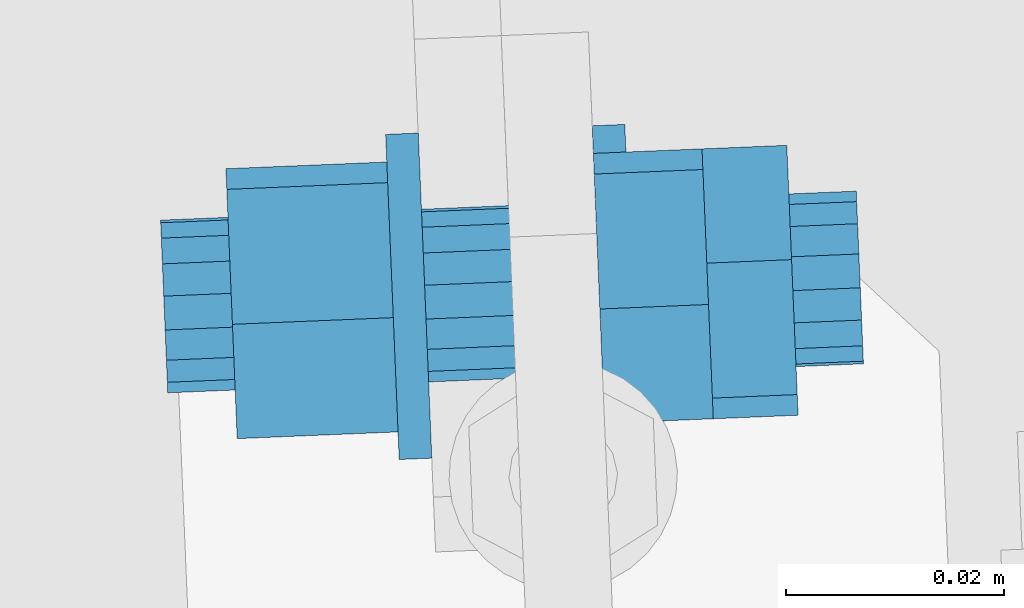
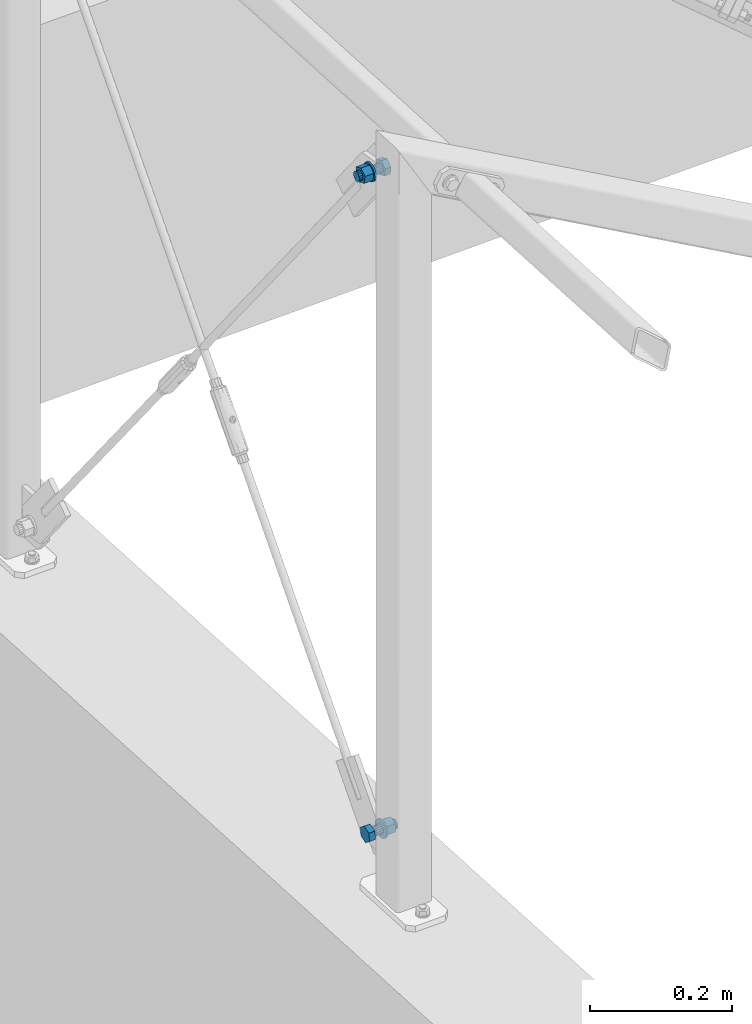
# One storey, part 244 of 288: 2 mechanical fasteners.
"""IFC2X3 building model written with IfcOpenShell, lengths in millimetres."""

from ifc_helpers import new_model, entity, si_unit, converted_unit, origin_with_axes, place, context, project, spatial, faceted_brep, element, save


model = new_model("IFC2X3")

# Units and contexts
model_context = context("Model", 3, precision=1e-09, world=origin_with_axes())
ifc_project = project(units=[si_unit("LENGTHUNIT", "METRE", prefix="MILLI"), si_unit("AREAUNIT", "SQUARE_METRE"), si_unit("VOLUMEUNIT", "CUBIC_METRE"), converted_unit("PLANEANGLEUNIT", "DEGREE", entity("IfcPlaneAngleMeasure", 0.01745329), si_unit("PLANEANGLEUNIT", "RADIAN"), dimensions=[0, 0, 0, 0, 0, 0, 0])], contexts=[model_context])

# Site, building, storey
site_placement = place(None, origin_with_axes())
site = spatial("IfcSite", under=ifc_project, at=site_placement, Name="Remont ?wietlik?w nad MC w NCPP w Opolu", CompositionType="ELEMENT")
building_placement = place(site_placement, origin_with_axes())
building = spatial("IfcBuilding", under=site, at=building_placement, Name="Konstrukcja 1", CompositionType="ELEMENT")
storey_placement = place(building_placement, origin_with_axes())
storey = spatial("IfcBuildingStorey", under=building, at=storey_placement, Name="Default Storey", CompositionType="ELEMENT", Elevation=0.0)

# Mechanical fasteners
mechanical_fastener_1_placement = place(None, origin_with_axes())
element("IfcMechanicalFastener", 1, at=mechanical_fastener_1_placement, inside=storey, ObjectType="Bolt#1", NominalDiameter=16.0, NominalLength=40.0, context=model_context, shape_type="Brep", body=[
    faceted_brep([(-696.219337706, 13405.078464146, 98.573975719), (-706.210651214, 13404.661745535, 98.573975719), (-705.69325701, 13392.256617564, 93.600473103), (-695.701943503, 13392.673336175, 93.600473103), (-705.614048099, 13390.357491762, 80.361225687), (-695.622734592, 13390.774210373, 80.361225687), (-706.052233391, 13400.86349393, 72.095480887), (-696.060919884, 13401.280212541, 72.095480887), (-706.569627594, 13413.268621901, 77.068983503), (-696.578314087, 13413.685340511, 77.068983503), (-706.648836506, 13415.167747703, 90.308230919), (-696.657522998, 13415.584466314, 90.308230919)], [[[0, 1, 2, 3]], [[3, 2, 4, 5]], [[5, 4, 6, 7]], [[7, 6, 8, 9]], [[9, 8, 10, 11]], [[11, 10, 1, 0]], [[4, 2, 1, 10, 8, 6]], [[0, 3, 5, 7, 9, 11]]]),
    faceted_brep([(-695.934103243, 13398.239636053, 79.045301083), (-679.948001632, 13398.90638583, 79.045301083), (-679.863386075, 13396.877629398, 81.416040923), (-695.849487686, 13396.210879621, 81.416040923), (-679.823017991, 13395.909757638, 84.383365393), (-695.809119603, 13395.243007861, 84.383365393), (-679.833043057, 13396.15012025, 87.495526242), (-695.819144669, 13395.483370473, 87.495526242), (-679.891935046, 13397.562124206, 90.278725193), (-695.878036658, 13396.895374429, 90.278725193), (-679.990728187, 13399.930804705, 92.309245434), (-695.976829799, 13399.264054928, 92.309245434), (-680.11438212, 13402.89555161, 93.277958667), (-696.100483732, 13402.228801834, 93.277958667), (-680.244071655, 13406.005009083, 93.037387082), (-696.230173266, 13405.338259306, 93.037387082), (-680.360052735, 13408.78579041, 91.624155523), (-696.346154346, 13408.119040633, 91.624155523), (-680.444668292, 13410.814546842, 89.253415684), (-696.430769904, 13410.147797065, 89.253415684), (-680.485036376, 13411.782418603, 86.286091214), (-696.471137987, 13411.115668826, 86.286091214), (-680.47501131, 13411.54205599, 83.173930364), (-696.461112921, 13410.875306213, 83.173930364), (-680.416119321, 13410.130052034, 80.390731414), (-696.402220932, 13409.463302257, 80.390731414), (-680.317326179, 13407.761371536, 78.360211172), (-696.303427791, 13407.094621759, 78.360211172), (-680.193672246, 13404.79662463, 77.391497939), (-696.179773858, 13404.129874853, 77.391497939), (-680.063982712, 13401.687167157, 77.632069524), (-696.050084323, 13401.02041738, 77.632069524)], [[[0, 1, 2, 3]], [[3, 2, 4, 5]], [[5, 4, 6, 7]], [[7, 6, 8, 9]], [[9, 8, 10, 11]], [[11, 10, 12, 13]], [[13, 12, 14, 15]], [[15, 14, 16, 17]], [[17, 16, 18, 19]], [[19, 18, 20, 21]], [[21, 20, 22, 23]], [[23, 22, 24, 25]], [[25, 24, 26, 27]], [[27, 26, 28, 29]], [[29, 28, 30, 31]], [[31, 30, 1, 0]], [[0, 3, 5, 7, 9, 11, 13, 15, 17, 19, 21, 23, 25, 27, 29, 31]], [[1, 30, 28, 26, 24, 22, 20, 18, 16, 14, 12, 10, 8, 6, 4, 2]]]),
    faceted_brep([(-679.767729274, 13394.584146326, 73.542052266), (-676.770335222, 13394.709161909, 73.542052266), (-676.681886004, 13392.588489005, 75.577131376), (-679.679280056, 13392.463473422, 75.577131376), (-676.611681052, 13390.9052436, 77.987189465), (-679.609075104, 13390.780228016, 77.987189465), (-676.562418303, 13389.724111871, 80.67960935), (-679.559812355, 13389.599096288, 80.67960935), (-676.535990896, 13389.090484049, 83.550922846), (-679.533384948, 13388.965468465, 83.550922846), (-676.533414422, 13389.028710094, 86.490786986), (-679.530808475, 13388.903694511, 86.490786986), (-676.554787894, 13389.541163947, 89.386224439), (-679.552181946, 13389.416148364, 89.386224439), (-676.599289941, 13390.608152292, 92.125965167), (-679.596683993, 13390.483136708, 92.125965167), (-676.665210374, 13392.188671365, 94.604722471), (-679.662604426, 13392.063655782, 94.604722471), (-676.750015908, 13394.221982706, 96.727239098), (-679.74740996, 13394.096967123, 96.727239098), (-676.850447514, 13396.629947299, 98.411947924), (-679.847841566, 13396.504931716, 98.411947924), (-676.962645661, 13399.320028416, 99.594106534), (-679.960039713, 13399.195012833, 99.594106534), (-677.082298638, 13402.188847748, 100.228285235), (-680.07969269, 13402.063832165, 100.228285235), (-677.204808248, 13405.126158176, 100.290112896), (-680.2022023, 13405.001142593, 100.290112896), (-677.325466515, 13408.019080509, 99.777213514), (-680.322860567, 13407.894064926, 99.777213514), (-677.43963661, 13410.756441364, 98.709297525), (-680.437030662, 13410.631425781, 98.709297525), (-677.54293104, 13413.233045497, 97.127404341), (-680.540325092, 13413.108029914, 97.127404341), (-677.631380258, 13415.353718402, 95.09232523), (-680.62877431, 13415.228702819, 95.09232523), (-677.70158521, 13417.036963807, 92.682267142), (-680.698979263, 13416.911948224, 92.682267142), (-677.75084796, 13418.218095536, 89.989847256), (-680.748242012, 13418.093079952, 89.989847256), (-677.777275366, 13418.851723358, 87.11853376), (-680.774669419, 13418.726707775, 87.11853376), (-677.77985184, 13418.913497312, 84.178669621), (-680.777245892, 13418.788481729, 84.178669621), (-677.758478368, 13418.40104346, 81.283232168), (-680.755872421, 13418.276027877, 81.283232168), (-677.713976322, 13417.334055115, 78.54349144), (-680.711370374, 13417.209039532, 78.54349144), (-677.648055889, 13415.753536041, 76.064734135), (-680.645449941, 13415.628520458, 76.064734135), (-677.563250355, 13413.720224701, 73.942217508), (-680.560644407, 13413.595209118, 73.942217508), (-677.462818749, 13411.312260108, 72.257508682), (-680.460212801, 13411.187244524, 72.257508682), (-677.350620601, 13408.622178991, 71.075350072), (-680.348014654, 13408.497163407, 71.075350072), (-677.230967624, 13405.753359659, 70.441171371), (-680.228361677, 13405.628344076, 70.441171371), (-677.108458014, 13402.81604923, 70.37934371), (-680.105852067, 13402.691033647, 70.37934371), (-676.987799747, 13399.923126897, 70.892243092), (-679.985193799, 13399.798111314, 70.892243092), (-676.873629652, 13397.185766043, 71.960159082), (-679.871023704, 13397.060750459, 71.960159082)], [[[0, 1, 2, 3]], [[3, 2, 4, 5]], [[5, 4, 6, 7]], [[7, 6, 8, 9]], [[9, 8, 10, 11]], [[11, 10, 12, 13]], [[13, 12, 14, 15]], [[15, 14, 16, 17]], [[17, 16, 18, 19]], [[19, 18, 20, 21]], [[21, 20, 22, 23]], [[23, 22, 24, 25]], [[25, 24, 26, 27]], [[27, 26, 28, 29]], [[29, 28, 30, 31]], [[31, 30, 32, 33]], [[33, 32, 34, 35]], [[35, 34, 36, 37]], [[37, 36, 38, 39]], [[39, 38, 40, 41]], [[41, 40, 42, 43]], [[43, 42, 44, 45]], [[45, 44, 46, 47]], [[47, 46, 48, 49]], [[49, 48, 50, 51]], [[51, 50, 52, 53]], [[53, 52, 54, 55]], [[55, 54, 56, 57]], [[57, 56, 58, 59]], [[59, 58, 60, 61]], [[61, 60, 62, 63]], [[63, 62, 1, 0]], [[0, 3, 5, 7, 9, 11, 13, 15, 17, 19, 21, 23, 25, 27, 29, 31, 33, 35, 37, 39, 41, 43, 45, 47, 49, 51, 53, 55, 57, 59, 61, 63]], [[1, 62, 60, 58, 56, 54, 52, 50, 48, 46, 44, 42, 40, 38, 36, 34, 32, 30, 28, 26, 24, 22, 20, 18, 16, 14, 12, 10, 8, 6, 4, 2]]]),
    faceted_brep([(-662.448698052, 13406.486973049, 98.573975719), (-677.235842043, 13405.870229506, 98.573975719), (-676.718447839, 13393.465101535, 93.600473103), (-661.931303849, 13394.081845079, 93.600473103), (-676.639238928, 13391.565975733, 80.361225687), (-661.852094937, 13392.182719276, 80.361225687), (-677.07742422, 13402.071977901, 72.095480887), (-662.290280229, 13402.688721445, 72.095480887), (-677.594818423, 13414.477105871, 77.068983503), (-662.807674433, 13415.093849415, 77.068983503), (-677.674027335, 13416.376231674, 90.308230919), (-662.886883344, 13416.992975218, 90.308230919)], [[[0, 1, 2, 3]], [[3, 2, 4, 5]], [[5, 4, 6, 7]], [[7, 6, 8, 9]], [[9, 8, 10, 11]], [[11, 10, 1, 0]], [[4, 2, 1, 10, 8, 6]], [[0, 3, 5, 7, 9, 11]]]),
    faceted_brep([(-662.163463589, 13399.648144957, 79.045301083), (-655.968849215, 13399.906510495, 79.045301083), (-655.884233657, 13397.877754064, 81.416040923), (-662.078848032, 13397.619388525, 81.416040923), (-655.843865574, 13396.909882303, 84.383365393), (-662.038479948, 13396.651516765, 84.383365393), (-655.85389064, 13397.150244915, 87.495526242), (-662.048505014, 13396.891879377, 87.495526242), (-655.912782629, 13398.562248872, 90.278725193), (-662.107397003, 13398.303883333, 90.278725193), (-656.01157577, 13400.93092937, 92.309245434), (-662.206190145, 13400.672563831, 92.309245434), (-656.135229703, 13403.895676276, 93.277958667), (-662.329844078, 13403.637310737, 93.277958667), (-656.264919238, 13407.005133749, 93.037387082), (-662.459533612, 13406.74676821, 93.037387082), (-656.380900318, 13409.785915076, 91.624155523), (-662.575514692, 13409.527549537, 91.624155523), (-656.465515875, 13411.814671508, 89.253415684), (-662.660130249, 13411.556305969, 89.253415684), (-656.505883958, 13412.782543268, 86.286091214), (-662.700498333, 13412.52417773, 86.286091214), (-656.495858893, 13412.542180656, 83.173930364), (-662.690473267, 13412.283815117, 83.173930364), (-656.436966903, 13411.130176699, 80.390731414), (-662.631581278, 13410.871811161, 80.390731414), (-656.338173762, 13408.761496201, 78.360211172), (-662.532788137, 13408.503130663, 78.360211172), (-656.214519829, 13405.796749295, 77.391497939), (-662.409134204, 13405.538383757, 77.391497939), (-656.084830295, 13402.687291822, 77.632069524), (-662.279444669, 13402.428926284, 77.632069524)], [[[0, 1, 2, 3]], [[3, 2, 4, 5]], [[5, 4, 6, 7]], [[7, 6, 8, 9]], [[9, 8, 10, 11]], [[11, 10, 12, 13]], [[13, 12, 14, 15]], [[15, 14, 16, 17]], [[17, 16, 18, 19]], [[19, 18, 20, 21]], [[21, 20, 22, 23]], [[23, 22, 24, 25]], [[25, 24, 26, 27]], [[27, 26, 28, 29]], [[29, 28, 30, 31]], [[31, 30, 1, 0]], [[0, 3, 5, 7, 9, 11, 13, 15, 17, 19, 21, 23, 25, 27, 29, 31]], [[1, 30, 28, 26, 24, 22, 20, 18, 16, 14, 12, 10, 8, 6, 4, 2]]]),
])
mechanical_fastener_2_placement = place(None, origin_with_axes())
element("IfcMechanicalFastener", 2, at=mechanical_fastener_2_placement, inside=storey, ObjectType="Bolt#1", NominalDiameter=16.0, NominalLength=40.0, context=model_context, shape_type="Brep", body=[
    faceted_brep([(-680.233236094, 13405.745213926, 1206.42602439), (-670.241922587, 13406.161932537, 1206.42602439), (-669.724528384, 13393.756804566, 1211.399527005), (-679.715841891, 13393.340085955, 1211.399527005), (-669.645319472, 13391.857678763, 1224.638774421), (-679.63663298, 13391.440960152, 1224.638774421), (-670.083504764, 13402.36368093, 1232.904519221), (-680.074818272, 13401.94696232, 1232.904519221), (-670.600898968, 13414.768808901, 1227.931016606), (-680.592212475, 13414.352090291, 1227.931016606), (-670.680107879, 13416.667934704, 1214.69176919), (-680.671421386, 13416.251216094, 1214.69176919)], [[[0, 1, 2, 3]], [[3, 2, 4, 5]], [[5, 4, 6, 7]], [[7, 6, 8, 9]], [[9, 8, 10, 11]], [[11, 10, 1, 0]], [[4, 2, 1, 10, 8, 6]], [[0, 3, 5, 7, 9, 11]]]),
    faceted_brep([(-679.948001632, 13398.906385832, 1225.954699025), (-695.934103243, 13398.239636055, 1225.954699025), (-695.849487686, 13396.210879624, 1223.583959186), (-679.863386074, 13396.877629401, 1223.583959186), (-695.809119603, 13395.243007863, 1220.616634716), (-679.823017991, 13395.90975764, 1220.616634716), (-695.819144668, 13395.483370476, 1217.504473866), (-679.833043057, 13396.150120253, 1217.504473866), (-695.878036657, 13396.895374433, 1214.721274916), (-679.891935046, 13397.56212421, 1214.721274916), (-695.976829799, 13399.264054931, 1212.690754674), (-679.990728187, 13399.930804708, 1212.690754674), (-696.100483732, 13402.228801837, 1211.722041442), (-680.11438212, 13402.895551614, 1211.722041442), (-696.230173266, 13405.33825931, 1211.962613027), (-680.244071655, 13406.005009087, 1211.962613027), (-696.346154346, 13408.119040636, 1213.375844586), (-680.360052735, 13408.785790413, 1213.375844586), (-696.430769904, 13410.147797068, 1215.746584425), (-680.444668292, 13410.814546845, 1215.746584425), (-696.471137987, 13411.115668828, 1218.713908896), (-680.485036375, 13411.782418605, 1218.713908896), (-696.461112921, 13410.875306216, 1221.826069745), (-680.47501131, 13411.542055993, 1221.826069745), (-696.402220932, 13409.463302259, 1224.609268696), (-680.41611932, 13410.130052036, 1224.609268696), (-696.303427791, 13407.094621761, 1226.639788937), (-680.317326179, 13407.761371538, 1226.639788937), (-696.179773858, 13404.129874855, 1227.60850217), (-680.193672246, 13404.796624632, 1227.60850217), (-696.050084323, 13401.020417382, 1227.367930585), (-680.063982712, 13401.687167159, 1227.367930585)], [[[0, 1, 2, 3]], [[3, 2, 4, 5]], [[5, 4, 6, 7]], [[7, 6, 8, 9]], [[9, 8, 10, 11]], [[11, 10, 12, 13]], [[13, 12, 14, 15]], [[15, 14, 16, 17]], [[17, 16, 18, 19]], [[19, 18, 20, 21]], [[21, 20, 22, 23]], [[23, 22, 24, 25]], [[25, 24, 26, 27]], [[27, 26, 28, 29]], [[29, 28, 30, 31]], [[31, 30, 1, 0]], [[0, 3, 5, 7, 9, 11, 13, 15, 17, 19, 21, 23, 25, 27, 29, 31]], [[1, 30, 28, 26, 24, 22, 20, 18, 16, 14, 12, 10, 8, 6, 4, 2]]]),
    faceted_brep([(-695.753830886, 13393.917396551, 1231.457947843), (-698.751224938, 13393.792380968, 1231.457947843), (-698.66277572, 13391.671708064, 1229.422868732), (-695.665381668, 13391.796723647, 1229.422868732), (-698.592570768, 13389.988462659, 1227.012810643), (-695.595176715, 13390.113478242, 1227.012810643), (-698.543308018, 13388.80733093, 1224.320390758), (-695.545913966, 13388.932346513, 1224.320390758), (-698.516880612, 13388.173703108, 1221.449077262), (-695.519486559, 13388.298718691, 1221.449077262), (-698.514304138, 13388.111929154, 1218.509213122), (-695.516910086, 13388.236944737, 1218.509213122), (-698.53567761, 13388.624383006, 1215.613775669), (-695.538283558, 13388.74939859, 1215.613775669), (-698.580179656, 13389.691371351, 1212.874034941), (-695.582785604, 13389.816386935, 1212.874034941), (-698.646100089, 13391.271890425, 1210.395277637), (-695.648706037, 13391.396906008, 1210.395277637), (-698.730905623, 13393.305201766, 1208.27276101), (-695.733511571, 13393.430217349, 1208.27276101), (-698.831337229, 13395.713166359, 1206.588052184), (-695.833943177, 13395.838181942, 1206.588052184), (-698.943535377, 13398.403247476, 1205.405893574), (-695.946141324, 13398.528263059, 1205.405893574), (-699.063188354, 13401.272066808, 1204.771714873), (-696.065794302, 13401.397082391, 1204.771714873), (-699.185697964, 13404.209377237, 1204.709887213), (-696.188303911, 13404.33439282, 1204.709887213), (-699.306356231, 13407.10229957, 1205.222786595), (-696.308962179, 13407.227315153, 1205.222786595), (-699.420526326, 13409.839660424, 1206.290702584), (-696.423132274, 13409.964676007, 1206.290702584), (-699.523820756, 13412.316264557, 1207.872595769), (-696.526426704, 13412.441280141, 1207.872595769), (-699.612269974, 13414.436937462, 1209.907674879), (-696.614875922, 13414.561953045, 1209.907674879), (-699.682474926, 13416.120182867, 1212.317732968), (-696.685080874, 13416.24519845, 1212.317732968), (-699.731737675, 13417.301314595, 1215.010152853), (-696.734343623, 13417.426330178, 1215.010152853), (-699.758165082, 13417.934942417, 1217.88146635), (-696.76077103, 13418.059958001, 1217.88146635), (-699.760741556, 13417.996716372, 1220.821330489), (-696.763347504, 13418.121731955, 1220.821330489), (-699.739368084, 13417.484262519, 1223.716767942), (-696.741974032, 13417.609278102, 1223.716767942), (-699.694866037, 13416.417274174, 1226.45650867), (-696.697471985, 13416.542289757, 1226.45650867), (-699.628945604, 13414.8367551, 1228.935265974), (-696.631551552, 13414.961770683, 1228.935265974), (-699.54414007, 13412.803443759, 1231.057782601), (-696.546746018, 13412.928459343, 1231.057782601), (-699.443708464, 13410.395479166, 1232.742491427), (-696.446314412, 13410.520494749, 1232.742491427), (-699.331510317, 13407.705398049, 1233.924650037), (-696.334116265, 13407.830413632, 1233.924650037), (-699.21185734, 13404.836578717, 1234.558828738), (-696.214463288, 13404.961594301, 1234.558828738), (-699.08934773, 13401.899268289, 1234.620656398), (-696.091953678, 13402.024283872, 1234.620656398), (-698.968689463, 13399.006345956, 1234.107757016), (-695.971295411, 13399.131361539, 1234.107757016), (-698.854519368, 13396.268985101, 1233.039841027), (-695.857125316, 13396.394000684, 1233.039841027)], [[[0, 1, 2, 3]], [[3, 2, 4, 5]], [[5, 4, 6, 7]], [[7, 6, 8, 9]], [[9, 8, 10, 11]], [[11, 10, 12, 13]], [[13, 12, 14, 15]], [[15, 14, 16, 17]], [[17, 16, 18, 19]], [[19, 18, 20, 21]], [[21, 20, 22, 23]], [[23, 22, 24, 25]], [[25, 24, 26, 27]], [[27, 26, 28, 29]], [[29, 28, 30, 31]], [[31, 30, 32, 33]], [[33, 32, 34, 35]], [[35, 34, 36, 37]], [[37, 36, 38, 39]], [[39, 38, 40, 41]], [[41, 40, 42, 43]], [[43, 42, 44, 45]], [[45, 44, 46, 47]], [[47, 46, 48, 49]], [[49, 48, 50, 51]], [[51, 50, 52, 53]], [[53, 52, 54, 55]], [[55, 54, 56, 57]], [[57, 56, 58, 59]], [[59, 58, 60, 61]], [[61, 60, 62, 63]], [[63, 62, 1, 0]], [[0, 3, 5, 7, 9, 11, 13, 15, 17, 19, 21, 23, 25, 27, 29, 31, 33, 35, 37, 39, 41, 43, 45, 47, 49, 51, 53, 55, 57, 59, 61, 63]], [[1, 62, 60, 58, 56, 54, 52, 50, 48, 46, 44, 42, 40, 38, 36, 34, 32, 30, 28, 26, 24, 22, 20, 18, 16, 14, 12, 10, 8, 6, 4, 2]]]),
    faceted_brep([(-714.003875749, 13404.336705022, 1206.42602439), (-699.216731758, 13404.953448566, 1206.42602439), (-698.699337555, 13392.548320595, 1211.399527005), (-713.486481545, 13391.931577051, 1211.399527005), (-698.620128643, 13390.649194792, 1224.638774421), (-713.407272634, 13390.032451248, 1224.638774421), (-699.058313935, 13401.155196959, 1232.904519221), (-713.845457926, 13400.538453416, 1232.904519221), (-699.575708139, 13413.56032493, 1227.931016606), (-714.362852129, 13412.943581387, 1227.931016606), (-699.65491705, 13415.459450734, 1214.69176919), (-714.442061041, 13414.84270719, 1214.69176919)], [[[0, 1, 2, 3]], [[3, 2, 4, 5]], [[5, 4, 6, 7]], [[7, 6, 8, 9]], [[9, 8, 10, 11]], [[11, 10, 1, 0]], [[4, 2, 1, 10, 8, 6]], [[0, 3, 5, 7, 9, 11]]]),
    faceted_brep([(-713.718641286, 13397.497876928, 1225.954699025), (-719.91325566, 13397.23951139, 1225.954699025), (-719.828640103, 13395.210754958, 1223.583959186), (-713.634025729, 13395.469120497, 1223.583959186), (-719.78827202, 13394.242883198, 1220.616634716), (-713.593657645, 13394.501248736, 1220.616634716), (-719.798297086, 13394.48324581, 1217.504473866), (-713.603682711, 13394.741611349, 1217.504473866), (-719.857189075, 13395.895249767, 1214.721274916), (-713.6625747, 13396.153615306, 1214.721274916), (-719.955982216, 13398.263930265, 1212.690754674), (-713.761367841, 13398.522295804, 1212.690754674), (-720.079636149, 13401.228677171, 1211.722041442), (-713.885021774, 13401.48704271, 1211.722041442), (-720.209325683, 13404.338134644, 1211.962613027), (-714.014711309, 13404.596500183, 1211.962613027), (-720.325306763, 13407.118915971, 1213.375844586), (-714.130692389, 13407.37728151, 1213.375844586), (-720.409922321, 13409.147672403, 1215.746584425), (-714.215307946, 13409.406037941, 1215.746584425), (-720.450290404, 13410.115544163, 1218.713908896), (-714.25567603, 13410.373909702, 1218.713908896), (-720.440265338, 13409.87518155, 1221.826069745), (-714.245650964, 13410.133547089, 1221.826069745), (-720.381373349, 13408.463177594, 1224.609268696), (-714.186758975, 13408.721543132, 1224.609268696), (-720.282580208, 13406.094497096, 1226.639788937), (-714.087965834, 13406.352862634, 1226.639788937), (-720.158926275, 13403.12975019, 1227.60850217), (-713.9643119, 13403.388115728, 1227.60850217), (-720.02923674, 13400.020292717, 1227.367930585), (-713.834622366, 13400.278658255, 1227.367930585)], [[[0, 1, 2, 3]], [[3, 2, 4, 5]], [[5, 4, 6, 7]], [[7, 6, 8, 9]], [[9, 8, 10, 11]], [[11, 10, 12, 13]], [[13, 12, 14, 15]], [[15, 14, 16, 17]], [[17, 16, 18, 19]], [[19, 18, 20, 21]], [[21, 20, 22, 23]], [[23, 22, 24, 25]], [[25, 24, 26, 27]], [[27, 26, 28, 29]], [[29, 28, 30, 31]], [[31, 30, 1, 0]], [[0, 3, 5, 7, 9, 11, 13, 15, 17, 19, 21, 23, 25, 27, 29, 31]], [[1, 30, 28, 26, 24, 22, 20, 18, 16, 14, 12, 10, 8, 6, 4, 2]]]),
])

save(model, "model.ifc")
